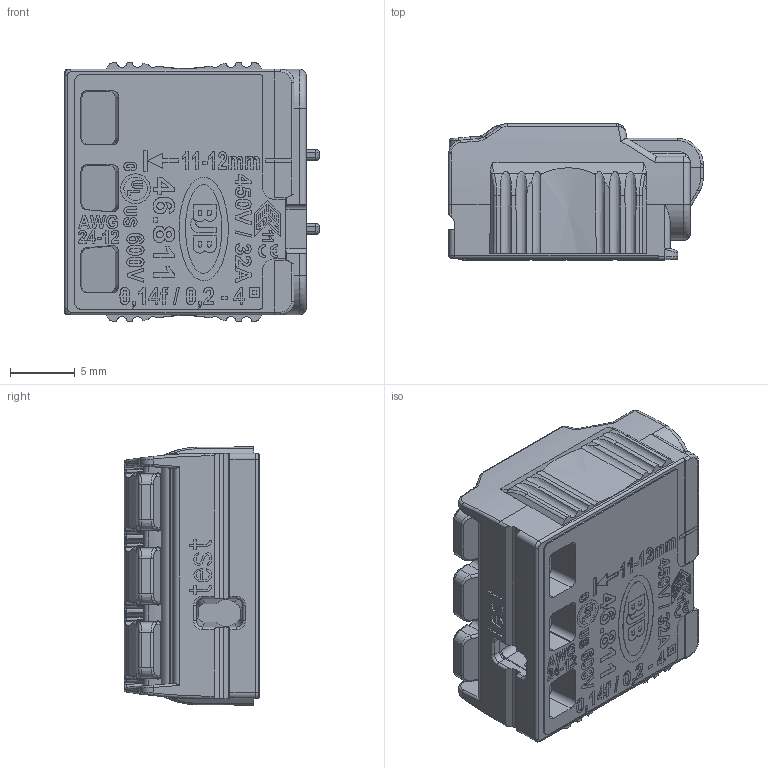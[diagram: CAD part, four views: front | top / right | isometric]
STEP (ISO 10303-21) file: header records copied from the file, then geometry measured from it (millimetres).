
FILE_DESCRIPTION(/* description */ ('Unknown'),/* implementation_level */ '2;1');
FILE_NAME(/* name */ '024-E01-06',/* time_stamp */ '2023-10-18T14:25:55+02:00',/* author */ ('Unknown'),/* organization */ ('Unknown'),/* preprocessor_version */ 'ST-DEVELOPER v16.7',/* originating_system */ 'Solid Edge',/* authorisation */ 'Unknown');
FILE_SCHEMA (('AUTOMOTIVE_DESIGN {1 0 10303 214 3 1 1}'));
Products named in the file (1): 024-E01-06
Bounding box: 19.6 x 10.47 x 19.9 mm (x, y, z)
Volume: 2707.3 mm3; surface area: 2318.7 mm2
Topology: 2 solids, 2 shells, 2259 faces, 6100 edges, 3943 vertices
Faces by surface type: plane 1088, cylinder 752, bspline 286, cone 78, torus 51, sphere 4
Full cylindrical faces by diameter (mm): 1.8 x1, 2.3 x1
Entity records: 97174 total; most frequent: CARTESIAN_POINT 26271, ORIENTED_EDGE 12182, DIRECTION 10630, EDGE_CURVE 6091, VERTEX_POINT 3943, AXIS2_PLACEMENT_3D 3620, LINE 3390, VECTOR 3390
